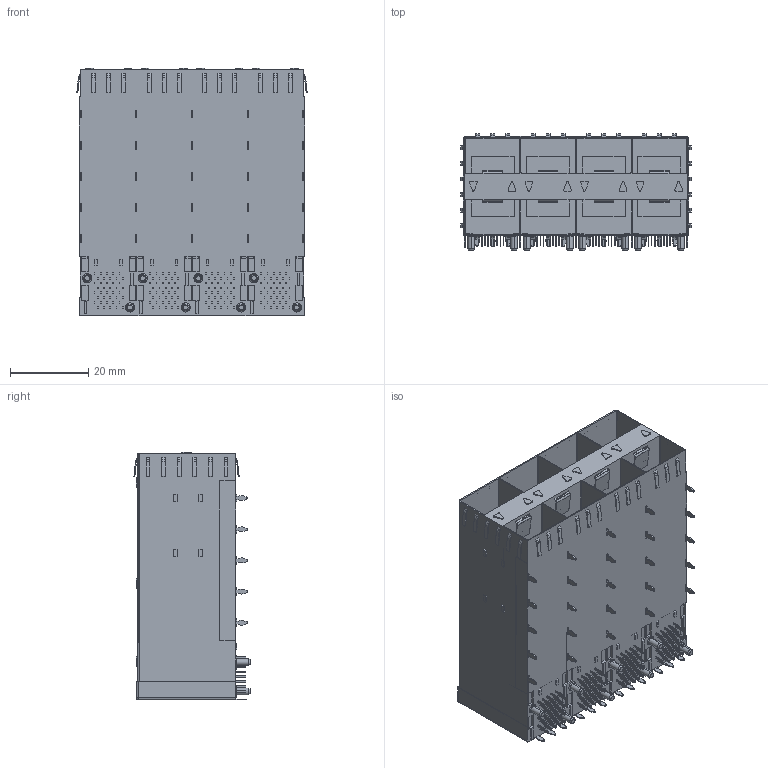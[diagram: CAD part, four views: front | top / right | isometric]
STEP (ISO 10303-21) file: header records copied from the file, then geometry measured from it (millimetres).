
FILE_DESCRIPTION (( 'STEP AP203' ), '1' );
FILE_NAME ('12403_SFP 2X4 无月牙 外导光柱.STEP', '2022-07-08T06:16:14', ( '桑三博客' ), ( 'Www.SangSan.Cn' ), 'SwSTEP 2.0', 'SolidWorks 2018', '' );
FILE_SCHEMA (( 'CONFIG_CONTROL_DESIGN' ));
Length unit declared in the file: millimetre
Products named in the file (1): 12403_SFP 2X4 拸堎挴 俋絳嫖翐
Bounding box: 59.05 x 29.8 x 63.5 mm (x, y, z)
Volume: 46737.1 mm3; surface area: 33697 mm2
Topology: 1 solids, 1 shells, 2446 faces, 6486 edges, 4310 vertices
Faces by surface type: plane 1830, cylinder 582, cone 32, sphere 2
Entity records: 75461 total; most frequent: CARTESIAN_POINT 13241, ORIENTED_EDGE 12968, DIRECTION 12574, EDGE_CURVE 6484, LINE 5288, VECTOR 5288, VERTEX_POINT 4310, AXIS2_PLACEMENT_3D 3643
